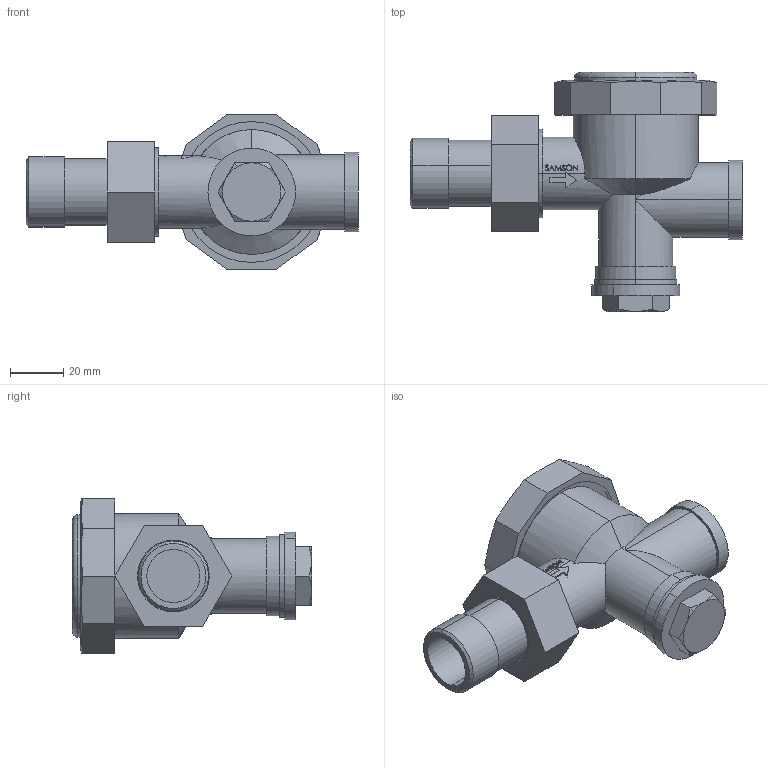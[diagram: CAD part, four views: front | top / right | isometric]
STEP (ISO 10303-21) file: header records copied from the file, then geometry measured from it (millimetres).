
FILE_DESCRIPTION (( 'STEP AP203' ), '1' );
FILE_NAME ('Typ13E_2013_SS_DIN_G3-4_#_#_#_std.STEP', '2010-06-21T12:39:04', ( '' ), ( '' ), 'SwSTEP 2.0', 'SolidWorks 2006303', '' );
FILE_SCHEMA (( 'CONFIG_CONTROL_DESIGN' ));
Length unit declared in the file: millimetre
Products named in the file (1): Typ13E_2013_SS_DIN_G3-4_#_#_#_std
Bounding box: 125 x 90 x 58 mm (x, y, z)
Volume: 164773.8 mm3; surface area: 53124.6 mm2
Topology: 8 solids, 8 shells, 315 faces, 775 edges, 509 vertices
Faces by surface type: plane 155, bspline 76, cylinder 62, cone 16, torus 6
Entity records: 13176 total; most frequent: CARTESIAN_POINT 6159, ORIENTED_EDGE 1550, DIRECTION 1193, EDGE_CURVE 775, VERTEX_POINT 509, LINE 415, VECTOR 415, AXIS2_PLACEMENT_3D 389
